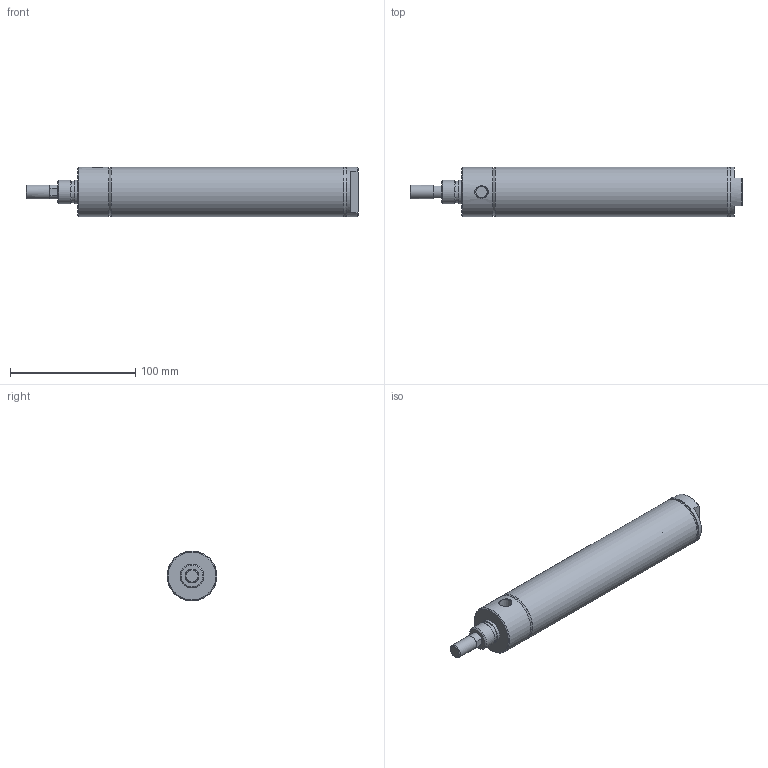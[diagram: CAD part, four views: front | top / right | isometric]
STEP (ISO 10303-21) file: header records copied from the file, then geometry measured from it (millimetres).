
FILE_DESCRIPTION( ( 'STEP AP214' ), '1' );
FILE_NAME( 'p:/temp/worker_523/temp/exporttempdir_5372_0_AWgfp/format_0/1500D01-06A-03.stp', '2020-05-07T18:31:22', ( 'License CC BY-ND 4.0' ), ( 'CADENAS' ), ' ', 'PARTsolutions', ' ' );
FILE_SCHEMA( ( 'AUTOMOTIVE_DESIGN { 1 0 10303 214 1 1 1 1 }' ) );
Length unit declared in the file: inch
Products named in the file (3): 1500D01-06A-03; _1500D01-06A-0300A00A0b; _1500D01-06A-030r
Assembly tree (2 placements, depth 2):
  1500D01-06A-03
    _1500D01-06A-0300A00A0b
    _1500D01-06A-030r
Bounding box: 265.13 x 39.73 x 39.73 mm (x, y, z)
Volume: 120952.4 mm3; surface area: 71899.3 mm2
Topology: 2 solids, 2 shells, 50 faces, 96 edges, 60 vertices
Faces by surface type: plane 26, cone 12, cylinder 12
Full cylindrical faces by diameter (mm): 11.112 x1, 11.125 x3, 17.178 x1, 19.025 x1, 19.05 x1, 38.1 x2, 39.7 x2, 39.726 x1
Entity records: 1653 total; most frequent: CARTESIAN_POINT 265, DIRECTION 216, ORIENTED_EDGE 140, AXIS2_PLACEMENT_3D 98, EDGE_LOOP 82, EDGE_CURVE 70, FACE_OUTER_BOUND 62, VERTEX_POINT 56
